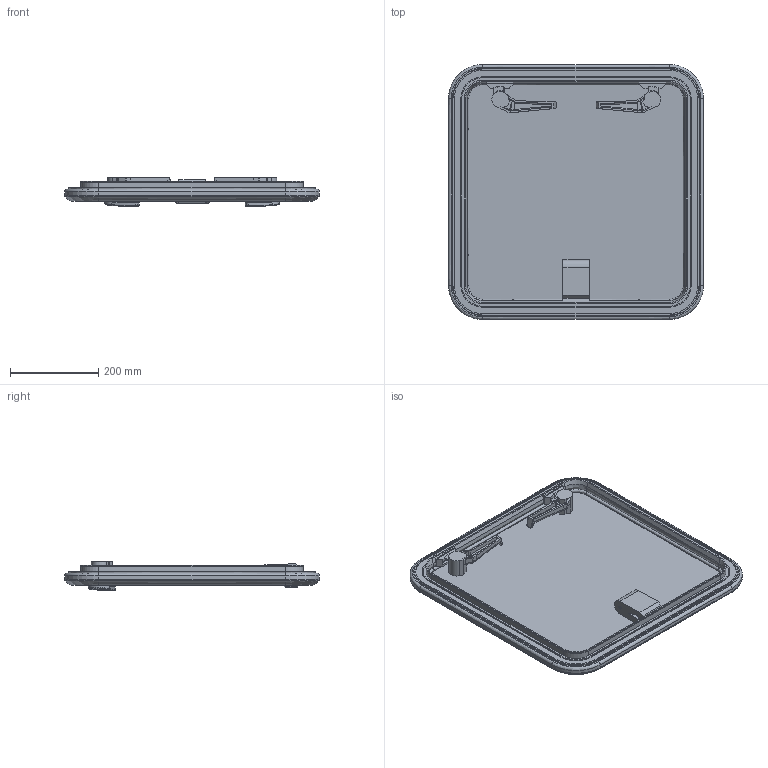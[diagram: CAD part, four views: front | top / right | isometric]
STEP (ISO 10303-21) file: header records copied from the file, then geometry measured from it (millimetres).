
FILE_DESCRIPTION((''),'2;1');
FILE_NAME('LEWMAR-HATCH-MEDPRO-60_ASM','2008-02-04T',('skennedy'),(''),'PRO/ENGINEER BY PARAMETRIC TECHNOLOGY CORPORATION, 2007030','PRO/ENGINEER BY PARAMETRIC TECHNOLOGY CORPORATION, 2007030','');
FILE_SCHEMA(('CONFIG_CONTROL_DESIGN'));
Length unit declared in the file: millimetre
Products named in the file (6): FRAME_MP_60; 3596043X; HANDLE_LHS; HANDLE_RHS; HINGE_LEVER; LEWMAR-HATCH-MEDPRO-60_ASM
Assembly tree (5 placements, depth 2):
  LEWMAR-HATCH-MEDPRO-60_ASM
    FRAME_MP_60
    3596043X
    HANDLE_LHS
    HANDLE_RHS
    HINGE_LEVER
Bounding box: 578 x 578 x 65.24 mm (x, y, z)
Volume: 3587922.9 mm3; surface area: 1104805.5 mm2
Topology: 3 solids, 5 shells, 991 faces, 2530 edges, 1562 vertices
Faces by surface type: plane 368, bspline 299, cylinder 189, torus 43, cone 37, extrusion 35, sphere 20
Entity records: 41033 total; most frequent: CARTESIAN_POINT 19341, ORIENTED_EDGE 5026, DIRECTION 3548, EDGE_CURVE 2515, VERTEX_POINT 1562, AXIS2_PLACEMENT_3D 1218, VECTOR 1112, LINE 1077
